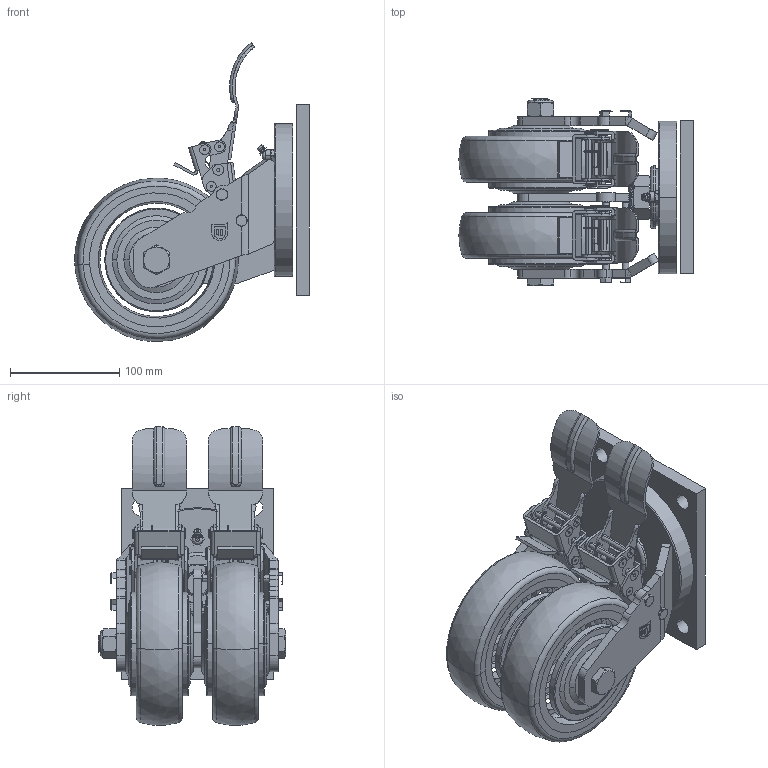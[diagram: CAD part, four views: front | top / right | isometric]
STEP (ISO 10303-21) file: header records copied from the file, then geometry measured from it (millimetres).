
FILE_DESCRIPTION((''),'2;1');
FILE_NAME('PRT0008','2025-05-08T14:10:09',('Administrator'),(''),'CREO PARAMETRIC BY PTC INC, 2022124','CREO PARAMETRIC BY PTC INC, 2022124','');
FILE_SCHEMA(('AP203_CONFIGURATION_CONTROLLED_3D_DESIGN_OF_MECHANICAL_PARTS_AND_ASSEMBLIES_MIM_LF { 1 0 10303 403 2 1 2 }'));
Length unit declared in the file: millimetre
Products named in the file (1): PRT0008
Bounding box: 214.9 x 172 x 274.21 mm (x, y, z)
Surface area: 321371.9 mm2 (no closed solid volume)
Topology: 0 solids, 72 shells, 604 faces, 1913 edges, 1351 vertices
Faces by surface type: plane 239, cylinder 183, cone 82, torus 61, bspline 39
Entity records: 36556 total; most frequent: CARTESIAN_POINT 15303, DIRECTION 3699, ORIENTED_EDGE 3114, EDGE_CURVE 1913, AXIS2_PLACEMENT_3D 1475, VERTEX_POINT 1351, CIRCLE 900, VECTOR 746
